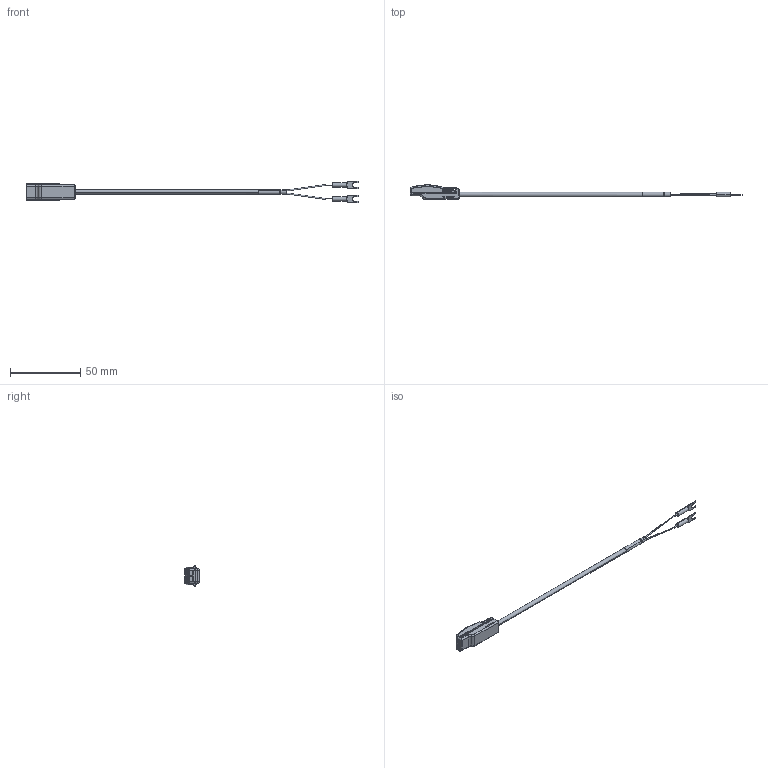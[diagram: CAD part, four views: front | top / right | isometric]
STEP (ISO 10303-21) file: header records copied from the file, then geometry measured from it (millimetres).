
FILE_DESCRIPTION (( 'STEP AP203' ), '1' );
FILE_NAME ('YIWST50A-5(0).STEP', '2023-06-08T08:17:52', ( '' ), ( '' ), 'SwSTEP 2.0', 'SolidWorks 2021', '' );
FILE_SCHEMA (( 'CONFIG_CONTROL_DESIGN' ));
Length unit declared in the file: millimetre
Products named in the file (1): YIWST50A-5(0)
Bounding box: 237.05 x 10.61 x 15.13 mm (x, y, z)
Volume: 4223.6 mm3; surface area: 5331.5 mm2
Topology: 1 solids, 1 shells, 601 faces, 1606 edges, 944 vertices
Faces by surface type: cylinder 202, plane 187, bspline 122, sphere 62, torus 24, cone 4
Entity records: 20283 total; most frequent: CARTESIAN_POINT 6880, ORIENTED_EDGE 3000, DIRECTION 2585, EDGE_CURVE 1500, AXIS2_PLACEMENT_3D 905, VERTEX_POINT 902, VECTOR 775, LINE 775
